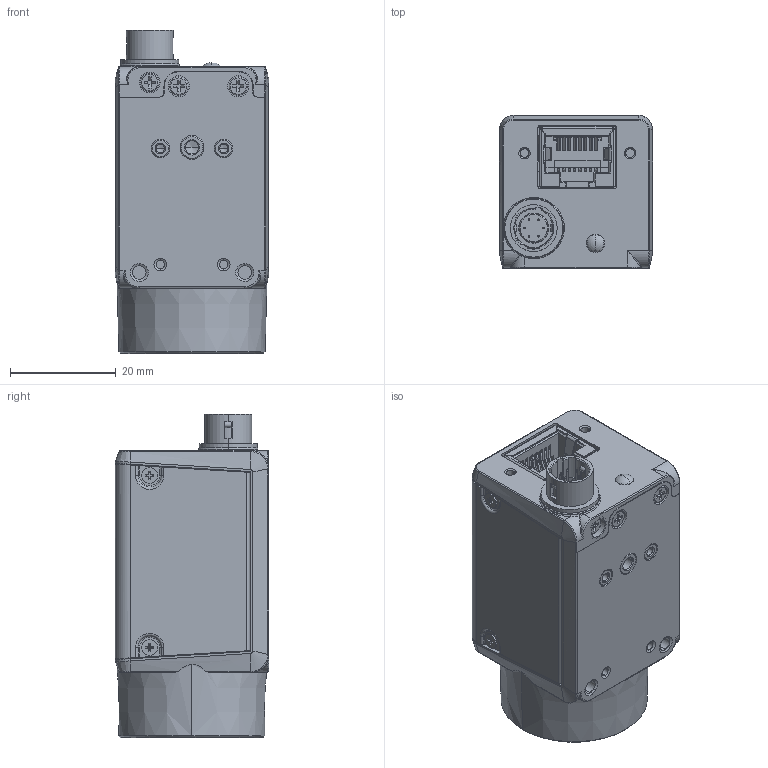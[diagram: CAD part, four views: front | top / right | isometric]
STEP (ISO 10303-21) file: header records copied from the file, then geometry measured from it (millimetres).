
FILE_DESCRIPTION((''),'2;1');
FILE_NAME('DH3-0195-6230_1','2023-11-24T14:12:47',('401332'),(''),'CREO PARAMETRIC BY PTC INC, 2020184','CREO PARAMETRIC BY PTC INC, 2020184','');
FILE_SCHEMA(('CONFIG_CONTROL_DESIGN','SHAPE_APPEARANCE_LAYERS_GROUPS'));
Products named in the file (1): DH3-0195-6230_1
Bounding box: 29 x 29.05 x 61.2 mm (x, y, z)
Volume: 30652.7 mm3; surface area: 23075.5 mm2
Topology: 1 solids, 15 shells, 2400 faces, 6632 edges, 4259 vertices
Faces by surface type: plane 1259, cylinder 656, bspline 208, cone 169, torus 67, extrusion 36, sphere 5
Entity records: 117286 total; most frequent: CARTESIAN_POINT 30885, ORIENTED_EDGE 13224, DIRECTION 11451, PRESENTATION_STYLE_ASSIGNMENT 7533, STYLED_ITEM 6650, CURVE_STYLE 6618, EDGE_CURVE 6612, VERTEX_POINT 4297
